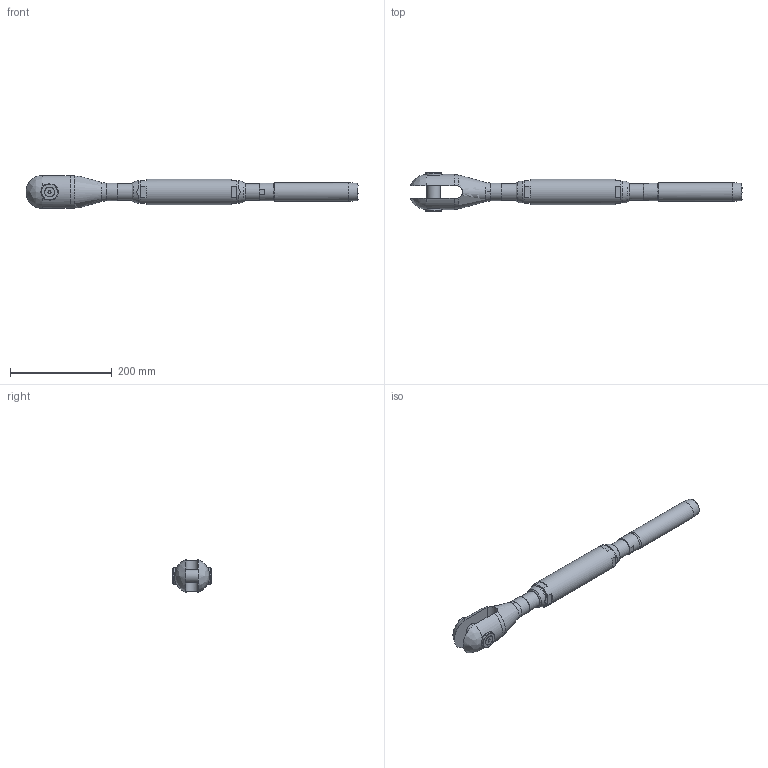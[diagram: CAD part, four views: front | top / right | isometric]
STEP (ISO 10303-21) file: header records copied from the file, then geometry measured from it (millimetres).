
FILE_DESCRIPTION(/* description */ (''),/* implementation_level */ '2;1');
FILE_NAME(/* name */ 'TBC 18_S355',/* time_stamp */ '2023-05-23T18:17:35+02:00',/* author */ (''),/* organization */ (''),/* preprocessor_version */ 'ST-DEVELOPER v16.5',/* originating_system */ 'Rhino 7.22',/* authorisation */ '');
FILE_SCHEMA (('CONFIG_CONTROL_DESIGN'));
Length unit declared in the file: millimetre
Products named in the file (1): Document
Bounding box: 652.33 x 77.16 x 64.69 mm (x, y, z)
Volume: 942547 mm3; surface area: 167597.6 mm2
Topology: 10 solids, 10 shells, 142 faces, 388 edges, 267 vertices
Faces by surface type: plane 66, bspline 41, cylinder 35
Full cylindrical faces by diameter (mm): 8.376 x2, 10 x2, 10.5 x2, 19.22 x2, 26 x1, 28 x2, 29.211 x4, 32 x2, 33 x2, 35 x2, 36.8 x1, 38 x1, 50 x1
Entity records: 5941 total; most frequent: CARTESIAN_POINT 3485, ORIENTED_EDGE 768, EDGE_CURVE 384, VERTEX_POINT 267, EDGE_LOOP 161, B_SPLINE_CURVE_WITH_KNOTS 160, ADVANCED_FACE 142, FACE_OUTER_BOUND 142
